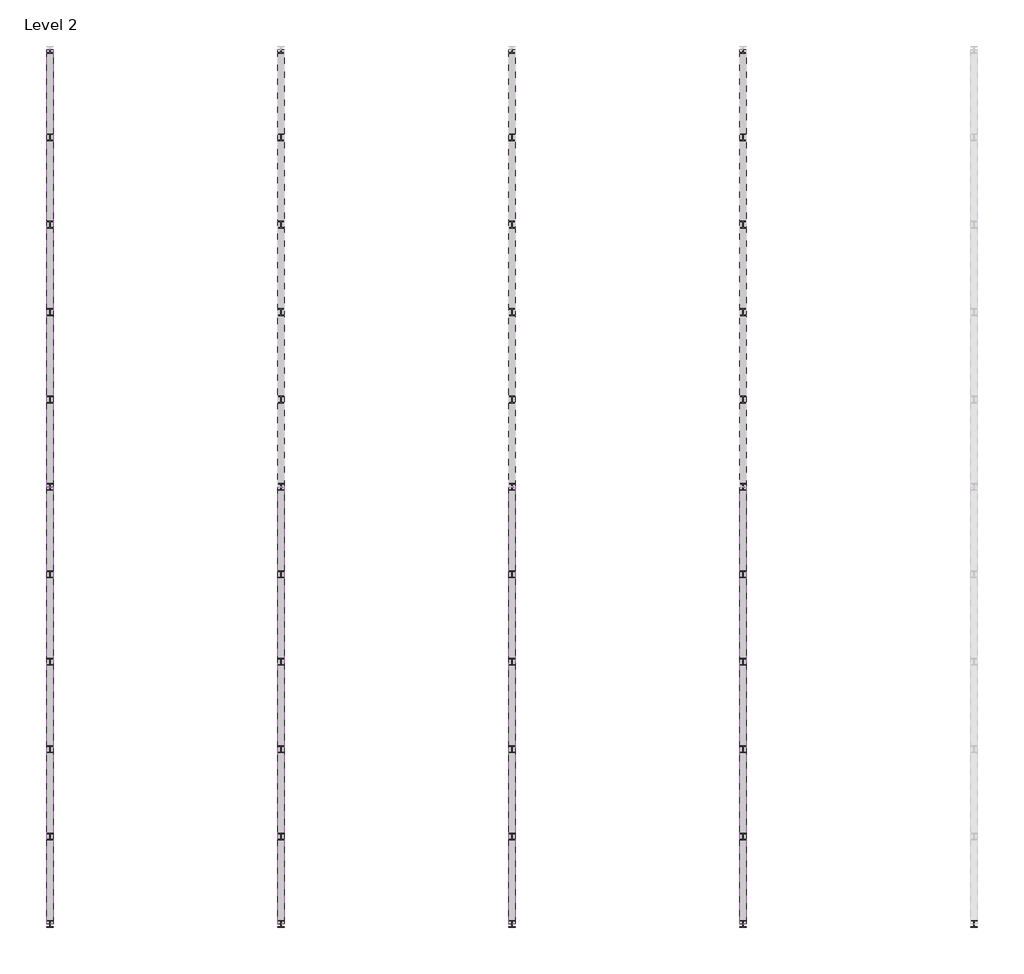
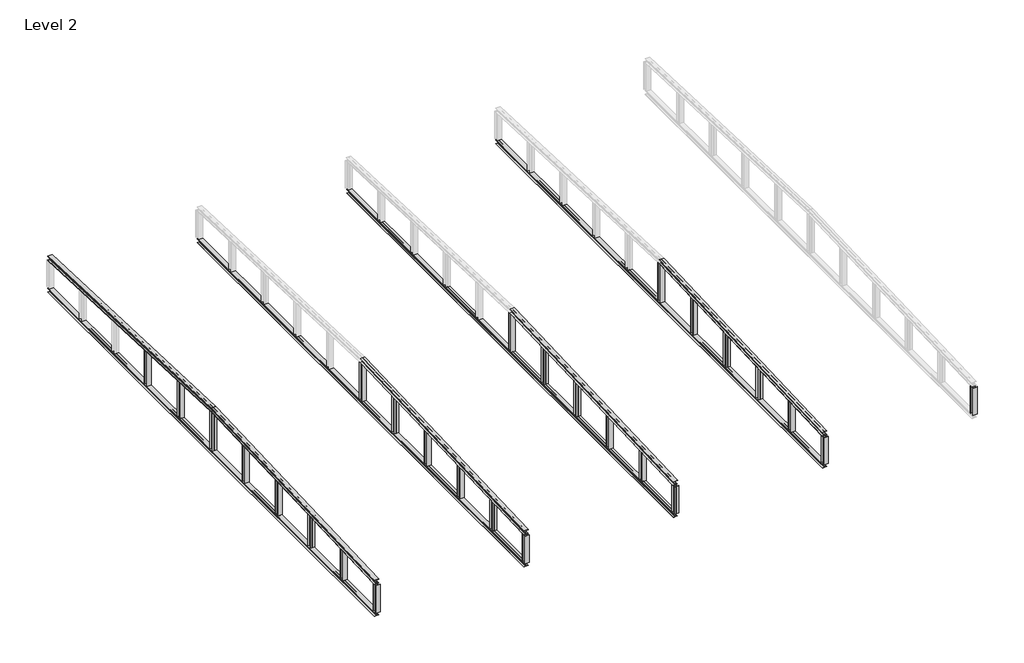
# One storey, part 1 of 2: 36 beams.
"""IFC4 building model written with IfcOpenShell, lengths in millimetres."""

from ifc_helpers import new_model, si_unit, frame, origin, place, context, project, spatial, polyline, circle_curve, ellipse_curve, transform, mapped, element, save
from ifc_brep_helpers import plane_surface, revolved_surface, advanced_brep
from components import hea240_4a02da6d, hea240_e4eec9e4, hea240_ab533a1a, hea240_35d9e401, hea240_a15198a2, hea240_e9e82d21, hea240_2c2d895f

model = new_model("IFC4")

# Units and contexts
model_context = context("Model", 3, world=origin())
ifc_project = project(units=[si_unit("LENGTHUNIT", "METRE", prefix="MILLI")], contexts=[model_context])

# Site, building, storey
site = spatial("IfcSite", under=ifc_project)
building = spatial("IfcBuilding", under=site)
storey = spatial("IfcBuildingStorey", under=building, Name="Level 2", Elevation=8500.0)

# Beams
placement = place(None, origin())
element("IfcBeam", 1, ObjectType="HE-A : HEA240", at=placement, inside=storey, context=model_context, shape_type="AdvancedBrep", body=[
    advanced_brep(
    [(8120.0, -140.88245, 10197.0823271), (8024.75, -140.88245, 10197.0823271), (8003.75, -141.7137556, 10218.0658666), (8003.75, -148.2058567, 10381.9373181), (8024.75, -149.0371623, 10402.9208576), (8120.0, -149.0371623, 10402.9208576), (8120.0, -149.5121941, 10414.9114517), (7880.0, -149.5121941, 10414.9114517), (7880.0, -149.0371623, 10402.9208576), (7975.25, -149.0371623, 10402.9208576), (7996.25, -148.2058567, 10381.9373181), (7996.25, -141.7137556, 10218.0658666), (7975.25, -140.88245, 10197.0823271), (7880.0, -140.88245, 10197.0823271), (7880.0, -140.4074182, 10185.0917331), (8120.0, -140.4074182, 10185.0917331), (8120.0, 15000.0, 10796.919202), (8024.75, 15000.0, 10796.919202), (8003.75, 15000.0, 10817.9356753), (8003.75, 15000.0, 10982.0643247), (8024.75, 15000.0, 11003.080798), (8120.0, 15000.0, 11003.080798), (8120.0, 15000.0, 11015.0902114), (7880.0, 15000.0, 11015.0902114), (7880.0, 15000.0, 11003.080798), (7975.25, 15000.0, 11003.080798), (7996.25, 15000.0, 10982.0643247), (7996.25, 15000.0, 10817.9356753), (7975.25, 15000.0, 10796.919202), (7880.0, 15000.0, 10796.919202), (7880.0, 15000.0, 10784.9097886), (8120.0, 15000.0, 10784.9097886)],
    [
        (0, 1),
        (1, 2, circle_curve(frame((8024.75, -141.7137556, 10218.0658666), z_axis=(0.0, 0.9992161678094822, 0.03958598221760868), x_axis=(-1.0, 0.0, 0.0)), 21.0)),
        (2, 3),
        (3, 4, circle_curve(frame((8024.75, -148.2058567, 10381.9373181), z_axis=(0.0, 0.9992161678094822, 0.03958598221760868), x_axis=(-1.0, 0.0, 0.0)), 21.0)),
        (4, 5),
        (5, 6),
        (6, 7),
        (7, 8),
        (8, 9),
        (9, 10, circle_curve(frame((7975.25, -148.2058567, 10381.9373181), z_axis=(0.0, 0.9992161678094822, 0.03958598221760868), x_axis=(-1.0, 0.0, 0.0)), 21.0)),
        (10, 11),
        (11, 12, circle_curve(frame((7975.25, -141.7137556, 10218.0658666), z_axis=(0.0, 0.9992161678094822, 0.03958598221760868), x_axis=(-1.0, 0.0, 0.0)), 21.0)),
        (12, 13),
        (13, 14),
        (14, 15),
        (15, 0),
        (0, 16),
        (16, 17),
        (17, 1),
        (17, 18, ellipse_curve(frame((8024.75, 15000.0, 10817.9356753), z_axis=(0.0, 1.0, 0.0), x_axis=(0.0, 0.0, 1.0)), 21.0164734, 21.0)),
        (18, 2),
        (18, 19),
        (19, 3),
        (19, 20, ellipse_curve(frame((8024.75, 15000.0, 10982.0643247), z_axis=(0.0, 1.0, 0.0), x_axis=(0.0, 0.0, 1.0)), 21.0164734, 21.0)),
        (20, 4),
        (20, 21),
        (21, 5),
        (21, 22),
        (22, 6),
        (22, 23),
        (23, 7),
        (23, 24),
        (24, 8),
        (24, 25),
        (25, 9),
        (25, 26, ellipse_curve(frame((7975.25, 15000.0, 10982.0643247), z_axis=(0.0, 1.0, 0.0), x_axis=(0.0, 0.0, 1.0)), 21.0164734, 21.0)),
        (26, 10),
        (26, 27),
        (27, 11),
        (27, 28, ellipse_curve(frame((7975.25, 15000.0, 10817.9356753), z_axis=(0.0, 1.0, 0.0), x_axis=(0.0, 0.0, 1.0)), 21.0164734, 21.0)),
        (28, 12),
        (28, 29),
        (29, 13),
        (29, 30),
        (30, 14),
        (30, 31),
        (31, 15),
        (31, 16),
    ],
    [
        plane_surface(frame((8000.0, -144.9598061, 10300.0015924), z_axis=(0.0, -0.9992161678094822, -0.03958598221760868), x_axis=(0.0, -0.03958598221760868, 0.9992161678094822))),
        plane_surface(frame((8120.0, -140.88245, 10197.0823271), z_axis=(0.0, -0.03958598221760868, 0.9992161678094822), x_axis=(0.0, 0.9992161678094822, 0.03958598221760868))),
        revolved_surface(polyline([(8003.75, 15000.831305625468, 10817.968609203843), (8003.75, -141.71375562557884, 10218.065866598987)]), (8024.75, -141.7137556, 10218.0658666), (0.0, 0.9992161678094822, 0.03958598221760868)),
        plane_surface(frame((8003.75, -141.7137556, 10218.0658666), z_axis=(1.0, 0.0, 0.0), x_axis=(0.0, 0.9992161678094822, 0.03958598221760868))),
        revolved_surface(polyline([(8003.75, 15000.831305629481, 10982.097258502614), (8003.75, -148.2058567, 10381.9373181)]), (8024.75, -148.2058567, 10381.9373181), (0.0, 0.9992161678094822, 0.03958598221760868)),
        plane_surface(frame((8024.75, -149.0371623, 10402.9208576), z_axis=(0.0, 0.03958598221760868, -0.9992161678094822), x_axis=(0.0, 0.9992161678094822, 0.03958598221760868))),
        plane_surface(frame((8120.0, -149.0371623, 10402.9208576), z_axis=(1.0, 0.0, 0.0), x_axis=(0.0, 0.9992161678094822, 0.03958598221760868))),
        plane_surface(frame((8120.0, -149.5121941, 10414.9114517), z_axis=(0.0, -0.03958598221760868, 0.9992161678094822), x_axis=(0.0, 0.9992161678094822, 0.03958598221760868))),
        plane_surface(frame((7880.0, -149.5121941, 10414.9114517), z_axis=(-1.0, 0.0, 0.0), x_axis=(0.0, 0.9992161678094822, 0.03958598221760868))),
        plane_surface(frame((7880.0, -149.0371623, 10402.9208576), z_axis=(0.0, 0.03958598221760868, -0.9992161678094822), x_axis=(0.0, 0.9992161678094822, 0.03958598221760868))),
        revolved_surface(polyline([(7954.25, 15000.831305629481, 10982.097258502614), (7954.25, -148.2058567, 10381.9373181)]), (7975.25, -148.2058567, 10381.9373181), (0.0, 0.9992161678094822, 0.03958598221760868)),
        plane_surface(frame((7996.25, -148.2058567, 10381.9373181), z_axis=(-1.0, 0.0, 0.0), x_axis=(0.0, 0.9992161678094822, 0.03958598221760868))),
        revolved_surface(polyline([(7954.25, 15000.831305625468, 10817.968609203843), (7954.25, -141.71375562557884, 10218.065866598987)]), (7975.25, -141.7137556, 10218.0658666), (0.0, 0.9992161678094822, 0.03958598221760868)),
        plane_surface(frame((7975.25, -140.88245, 10197.0823271), z_axis=(0.0, -0.03958598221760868, 0.9992161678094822), x_axis=(0.0, 0.9992161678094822, 0.03958598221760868))),
        plane_surface(frame((7880.0, -140.88245, 10197.0823271), z_axis=(-1.0, 0.0, 0.0), x_axis=(0.0, 0.9992161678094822, 0.03958598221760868))),
        plane_surface(frame((7880.0, -140.4074182, 10185.0917331), z_axis=(0.0, 0.03958598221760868, -0.9992161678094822), x_axis=(0.0, 0.9992161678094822, 0.03958598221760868))),
        plane_surface(frame((8120.0, -140.4074182, 10185.0917331), z_axis=(1.0, 0.0, 0.0), x_axis=(0.0, 0.9992161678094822, 0.03958598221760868))),
        plane_surface(frame((8000.0, 15000.0, 11015.0902114), z_axis=(0.0, 1.0, 0.0), x_axis=(0.0, 0.0, -1.0))),
    ],
    [
        (0, [[1, 2, 3, 4, 5, 6, 7, 8, 9, 10, 11, 12, 13, 14, 15, 16]]),
        (1, [[-1, 17, 18, 19]]),
        (2, [[-2, -19, 20, 21]]),
        (3, [[-3, -21, 22, 23]]),
        (4, [[-4, -23, 24, 25]]),
        (5, [[-5, -25, 26, 27]]),
        (6, [[-6, -27, 28, 29]]),
        (7, [[-7, -29, 30, 31]]),
        (8, [[-8, -31, 32, 33]]),
        (9, [[-9, -33, 34, 35]]),
        (10, [[-10, -35, 36, 37]]),
        (11, [[-11, -37, 38, 39]]),
        (12, [[-12, -39, 40, 41]]),
        (13, [[-13, -41, 42, 43]]),
        (14, [[-14, -43, 44, 45]]),
        (15, [[-15, -45, 46, 47]]),
        (16, [[-16, -47, 48, -17]]),
        (17, [[-48, -46, -44, -42, -40, -38, -36, -34, -32, -30, -28, -26, -24, -22, -20, -18]]),
    ],
),
])
element("IfcBeam", 2, ObjectType="HE-A : HEA240", at=placement, inside=storey, context=model_context, shape_type="AdvancedBrep", body=[
    advanced_brep(
    [(120.0, 30140.88245, 10197.0823271), (120.0, 30140.4074182, 10185.0917331), (-120.0, 30140.4074182, 10185.0917331), (-120.0, 30140.88245, 10197.0823271), (-24.75, 30140.88245, 10197.0823271), (-3.75, 30141.7137556, 10218.0658666), (-3.75, 30148.2058567, 10381.9373181), (-24.75, 30149.0371623, 10402.9208576), (-120.0, 30149.0371623, 10402.9208576), (-120.0, 30149.5121941, 10414.9114517), (120.0, 30149.5121941, 10414.9114517), (120.0, 30149.0371623, 10402.9208576), (24.75, 30149.0371623, 10402.9208576), (3.75, 30148.2058567, 10381.9373181), (3.75, 30141.7137556, 10218.0658666), (24.75, 30140.88245, 10197.0823271), (24.75, 15000.0, 10796.919202), (120.0, 15000.0, 10796.919202), (3.75, 15000.0, 10817.9356753), (3.75, 15000.0, 10982.0643247), (24.75, 15000.0, 11003.080798), (120.0, 15000.0, 11003.080798), (120.0, 15000.0, 11015.0902114), (-120.0, 15000.0, 11015.0902114), (-120.0, 15000.0, 11003.080798), (-24.75, 15000.0, 11003.080798), (-3.75, 15000.0, 10982.0643247), (-3.75, 15000.0, 10817.9356753), (-24.75, 15000.0, 10796.919202), (-120.0, 15000.0, 10796.919202), (-120.0, 15000.0, 10784.9097886), (120.0, 15000.0, 10784.9097886)],
    [
        (0, 1),
        (1, 2),
        (2, 3),
        (3, 4),
        (4, 5, circle_curve(frame((-24.75, 30141.7137556, 10218.0658666), z_axis=(0.0, -0.9992161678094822, 0.039585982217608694), x_axis=(-1.0, 0.0, 0.0)), 21.0)),
        (5, 6),
        (6, 7, circle_curve(frame((-24.75, 30148.2058567, 10381.9373181), z_axis=(0.0, -0.9992161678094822, 0.039585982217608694), x_axis=(-1.0, 0.0, 0.0)), 21.0)),
        (7, 8),
        (8, 9),
        (9, 10),
        (10, 11),
        (11, 12),
        (12, 13, circle_curve(frame((24.75, 30148.2058567, 10381.9373181), z_axis=(0.0, -0.9992161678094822, 0.039585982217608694), x_axis=(-1.0, 0.0, 0.0)), 21.0)),
        (13, 14),
        (14, 15, circle_curve(frame((24.75, 30141.7137556, 10218.0658666), z_axis=(0.0, -0.9992161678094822, 0.039585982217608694), x_axis=(-1.0, 0.0, 0.0)), 21.0)),
        (15, 0),
        (16, 17),
        (17, 0),
        (15, 16),
        (18, 16, ellipse_curve(frame((24.75, 15000.0, 10817.9356753), z_axis=(0.0, -1.0, 0.0), x_axis=(0.0, 0.0, -1.0)), 21.0164734, 21.0)),
        (14, 18),
        (19, 18),
        (13, 19),
        (20, 19, ellipse_curve(frame((24.75, 15000.0, 10982.0643247), z_axis=(0.0, -1.0, 0.0), x_axis=(0.0, 0.0, -1.0)), 21.0164734, 21.0)),
        (12, 20),
        (21, 20),
        (11, 21),
        (22, 21),
        (10, 22),
        (23, 22),
        (9, 23),
        (24, 23),
        (8, 24),
        (25, 24),
        (7, 25),
        (26, 25, ellipse_curve(frame((-24.75, 15000.0, 10982.0643247), z_axis=(0.0, -1.0, 0.0), x_axis=(0.0, 0.0, -1.0)), 21.0164734, 21.0)),
        (6, 26),
        (27, 26),
        (5, 27),
        (28, 27, ellipse_curve(frame((-24.75, 15000.0, 10817.9356753), z_axis=(0.0, -1.0, 0.0), x_axis=(0.0, 0.0, -1.0)), 21.0164734, 21.0)),
        (4, 28),
        (29, 28),
        (3, 29),
        (30, 29),
        (2, 30),
        (31, 30),
        (1, 31),
        (17, 31),
    ],
    [
        plane_surface(frame((0.0, 30144.9598061, 10300.0015924), z_axis=(0.0, 0.9992161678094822, -0.039585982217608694), x_axis=(0.0, 0.039585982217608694, 0.9992161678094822))),
        plane_surface(frame((120.0, 14995.9628377, 10797.0791424), z_axis=(0.0, 0.039585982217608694, 0.9992161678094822), x_axis=(0.0, 0.9992161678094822, -0.039585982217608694))),
        revolved_surface(polyline([(3.75, 30141.713755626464, 10218.06586662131), (3.75, 14999.168694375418, 10817.968609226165)]), (24.75, 14996.7941433, 10818.0626819), (0.0, 0.9992161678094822, -0.039585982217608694)),
        plane_surface(frame((3.75, 14996.7941433, 10818.0626819), z_axis=(1.0, 0.0, 0.0), x_axis=(0.0, 0.9992161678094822, -0.039585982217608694))),
        revolved_surface(polyline([(3.75, 30148.205856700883, 10381.937318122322), (3.75, 14999.168694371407, 10982.097258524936)]), (24.75, 15003.2862444, 10981.9341334), (0.0, 0.9992161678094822, -0.039585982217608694)),
        plane_surface(frame((24.75, 15004.11755, 11002.9176729), z_axis=(0.0, -0.039585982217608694, -0.9992161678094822), x_axis=(0.0, 0.9992161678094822, -0.039585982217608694))),
        plane_surface(frame((120.0, 15004.11755, 11002.9176729), z_axis=(1.0, 0.0, 0.0), x_axis=(0.0, 0.9992161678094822, -0.039585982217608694))),
        plane_surface(frame((120.0, 15004.5925818, 11014.9082669), z_axis=(0.0, 0.039585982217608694, 0.9992161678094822), x_axis=(0.0, 0.9992161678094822, -0.039585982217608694))),
        plane_surface(frame((-120.0, 15004.5925818, 11014.9082669), z_axis=(-1.0, 0.0, 0.0), x_axis=(0.0, 0.9992161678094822, -0.039585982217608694))),
        plane_surface(frame((-120.0, 15004.11755, 11002.9176729), z_axis=(0.0, -0.039585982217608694, -0.9992161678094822), x_axis=(0.0, 0.9992161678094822, -0.039585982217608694))),
        revolved_surface(polyline([(-45.75, 30148.205856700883, 10381.937318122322), (-45.75, 14999.168694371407, 10982.097258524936)]), (-24.75, 15003.2862444, 10981.9341334), (0.0, 0.9992161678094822, -0.039585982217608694)),
        plane_surface(frame((-3.75, 15003.2862444, 10981.9341334), z_axis=(-1.0, 0.0, 0.0), x_axis=(0.0, 0.9992161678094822, -0.039585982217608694))),
        revolved_surface(polyline([(-45.75, 30141.713755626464, 10218.06586662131), (-45.75, 14999.168694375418, 10817.968609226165)]), (-24.75, 14996.7941433, 10818.0626819), (0.0, 0.9992161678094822, -0.039585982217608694)),
        plane_surface(frame((-24.75, 14995.9628377, 10797.0791424), z_axis=(0.0, 0.039585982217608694, 0.9992161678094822), x_axis=(0.0, 0.9992161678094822, -0.039585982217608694))),
        plane_surface(frame((-120.0, 14995.9628377, 10797.0791424), z_axis=(-1.0, 0.0, 0.0), x_axis=(0.0, 0.9992161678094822, -0.039585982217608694))),
        plane_surface(frame((-120.0, 14995.4878059, 10785.0885483), z_axis=(0.0, -0.039585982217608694, -0.9992161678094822), x_axis=(0.0, 0.9992161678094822, -0.039585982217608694))),
        plane_surface(frame((120.0, 14995.4878059, 10785.0885483), z_axis=(1.0, 0.0, 0.0), x_axis=(0.0, 0.9992161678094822, -0.039585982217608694))),
        plane_surface(frame((0.0, 15000.0, 11015.0902114), z_axis=(0.0, -1.0, 0.0), x_axis=(0.0, 0.0, 1.0))),
    ],
    [
        (0, [[1, 2, 3, 4, 5, 6, 7, 8, 9, 10, 11, 12, 13, 14, 15, 16]]),
        (1, [[17, 18, -16, 19]]),
        (2, [[20, -19, -15, 21]]),
        (3, [[22, -21, -14, 23]]),
        (4, [[24, -23, -13, 25]]),
        (5, [[26, -25, -12, 27]]),
        (6, [[28, -27, -11, 29]]),
        (7, [[30, -29, -10, 31]]),
        (8, [[32, -31, -9, 33]]),
        (9, [[34, -33, -8, 35]]),
        (10, [[36, -35, -7, 37]]),
        (11, [[38, -37, -6, 39]]),
        (12, [[40, -39, -5, 41]]),
        (13, [[42, -41, -4, 43]]),
        (14, [[44, -43, -3, 45]]),
        (15, [[46, -45, -2, 47]]),
        (16, [[48, -47, -1, -18]]),
        (17, [[-17, -20, -22, -24, -26, -28, -30, -32, -34, -36, -38, -40, -42, -44, -46, -48]]),
    ],
),
])
element("IfcBeam", 3, ObjectType="HE-A : HEA240", at=placement, inside=storey, context=model_context, shape_type="AdvancedBrep", body=[
    advanced_brep(
    [(120.0, -140.88245, 10197.0823271), (24.75, -140.88245, 10197.0823271), (3.75, -141.7137556, 10218.0658666), (3.75, -148.2058567, 10381.9373181), (24.75, -149.0371623, 10402.9208576), (120.0, -149.0371623, 10402.9208576), (120.0, -149.5121941, 10414.9114517), (-120.0, -149.5121941, 10414.9114517), (-120.0, -149.0371623, 10402.9208576), (-24.75, -149.0371623, 10402.9208576), (-3.75, -148.2058567, 10381.9373181), (-3.75, -141.7137556, 10218.0658666), (-24.75, -140.88245, 10197.0823271), (-120.0, -140.88245, 10197.0823271), (-120.0, -140.4074182, 10185.0917331), (120.0, -140.4074182, 10185.0917331), (120.0, 15000.0, 10796.919202), (24.75, 15000.0, 10796.919202), (3.75, 15000.0, 10817.9356753), (3.75, 15000.0, 10982.0643247), (24.75, 15000.0, 11003.080798), (120.0, 15000.0, 11003.080798), (120.0, 15000.0, 11015.0902114), (-120.0, 15000.0, 11015.0902114), (-120.0, 15000.0, 11003.080798), (-24.75, 15000.0, 11003.080798), (-3.75, 15000.0, 10982.0643247), (-3.75, 15000.0, 10817.9356753), (-24.75, 15000.0, 10796.919202), (-120.0, 15000.0, 10796.919202), (-120.0, 15000.0, 10784.9097886), (120.0, 15000.0, 10784.9097886)],
    [
        (0, 1),
        (1, 2, circle_curve(frame((24.75, -141.7137556, 10218.0658666), z_axis=(0.0, 0.9992161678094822, 0.03958598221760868), x_axis=(-1.0, 0.0, 0.0)), 21.0)),
        (2, 3),
        (3, 4, circle_curve(frame((24.75, -148.2058567, 10381.9373181), z_axis=(0.0, 0.9992161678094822, 0.03958598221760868), x_axis=(-1.0, 0.0, 0.0)), 21.0)),
        (4, 5),
        (5, 6),
        (6, 7),
        (7, 8),
        (8, 9),
        (9, 10, circle_curve(frame((-24.75, -148.2058567, 10381.9373181), z_axis=(0.0, 0.9992161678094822, 0.03958598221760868), x_axis=(-1.0, 0.0, 0.0)), 21.0)),
        (10, 11),
        (11, 12, circle_curve(frame((-24.75, -141.7137556, 10218.0658666), z_axis=(0.0, 0.9992161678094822, 0.03958598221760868), x_axis=(-1.0, 0.0, 0.0)), 21.0)),
        (12, 13),
        (13, 14),
        (14, 15),
        (15, 0),
        (0, 16),
        (16, 17),
        (17, 1),
        (17, 18, ellipse_curve(frame((24.75, 15000.0, 10817.9356753), z_axis=(0.0, 1.0, 0.0), x_axis=(0.0, 0.0, 1.0)), 21.0164734, 21.0)),
        (18, 2),
        (18, 19),
        (19, 3),
        (19, 20, ellipse_curve(frame((24.75, 15000.0, 10982.0643247), z_axis=(0.0, 1.0, 0.0), x_axis=(0.0, 0.0, 1.0)), 21.0164734, 21.0)),
        (20, 4),
        (20, 21),
        (21, 5),
        (21, 22),
        (22, 6),
        (22, 23),
        (23, 7),
        (23, 24),
        (24, 8),
        (24, 25),
        (25, 9),
        (25, 26, ellipse_curve(frame((-24.75, 15000.0, 10982.0643247), z_axis=(0.0, 1.0, 0.0), x_axis=(0.0, 0.0, 1.0)), 21.0164734, 21.0)),
        (26, 10),
        (26, 27),
        (27, 11),
        (27, 28, ellipse_curve(frame((-24.75, 15000.0, 10817.9356753), z_axis=(0.0, 1.0, 0.0), x_axis=(0.0, 0.0, 1.0)), 21.0164734, 21.0)),
        (28, 12),
        (28, 29),
        (29, 13),
        (29, 30),
        (30, 14),
        (30, 31),
        (31, 15),
        (31, 16),
    ],
    [
        plane_surface(frame((0.0, -144.9598061, 10300.0015924), z_axis=(0.0, -0.9992161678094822, -0.03958598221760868), x_axis=(0.0, -0.03958598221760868, 0.9992161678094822))),
        plane_surface(frame((120.0, -140.88245, 10197.0823271), z_axis=(0.0, -0.03958598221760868, 0.9992161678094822), x_axis=(0.0, 0.9992161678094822, 0.03958598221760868))),
        revolved_surface(polyline([(3.75, 15000.831305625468, 10817.968609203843), (3.75, -141.71375562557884, 10218.065866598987)]), (24.75, -141.7137556, 10218.0658666), (0.0, 0.9992161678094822, 0.03958598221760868)),
        plane_surface(frame((3.75, -141.7137556, 10218.0658666), z_axis=(1.0, 0.0, 0.0), x_axis=(0.0, 0.9992161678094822, 0.03958598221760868))),
        revolved_surface(polyline([(3.75, 15000.831305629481, 10982.097258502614), (3.75, -148.2058567, 10381.9373181)]), (24.75, -148.2058567, 10381.9373181), (0.0, 0.9992161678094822, 0.03958598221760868)),
        plane_surface(frame((24.75, -149.0371623, 10402.9208576), z_axis=(0.0, 0.03958598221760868, -0.9992161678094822), x_axis=(0.0, 0.9992161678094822, 0.03958598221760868))),
        plane_surface(frame((120.0, -149.0371623, 10402.9208576), z_axis=(1.0, 0.0, 0.0), x_axis=(0.0, 0.9992161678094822, 0.03958598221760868))),
        plane_surface(frame((120.0, -149.5121941, 10414.9114517), z_axis=(0.0, -0.03958598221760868, 0.9992161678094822), x_axis=(0.0, 0.9992161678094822, 0.03958598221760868))),
        plane_surface(frame((-120.0, -149.5121941, 10414.9114517), z_axis=(-1.0, 0.0, 0.0), x_axis=(0.0, 0.9992161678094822, 0.03958598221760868))),
        plane_surface(frame((-120.0, -149.0371623, 10402.9208576), z_axis=(0.0, 0.03958598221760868, -0.9992161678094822), x_axis=(0.0, 0.9992161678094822, 0.03958598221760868))),
        revolved_surface(polyline([(-45.75, 15000.831305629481, 10982.097258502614), (-45.75, -148.2058567, 10381.9373181)]), (-24.75, -148.2058567, 10381.9373181), (0.0, 0.9992161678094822, 0.03958598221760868)),
        plane_surface(frame((-3.75, -148.2058567, 10381.9373181), z_axis=(-1.0, 0.0, 0.0), x_axis=(0.0, 0.9992161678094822, 0.03958598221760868))),
        revolved_surface(polyline([(-45.75, 15000.831305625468, 10817.968609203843), (-45.75, -141.71375562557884, 10218.065866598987)]), (-24.75, -141.7137556, 10218.0658666), (0.0, 0.9992161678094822, 0.03958598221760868)),
        plane_surface(frame((-24.75, -140.88245, 10197.0823271), z_axis=(0.0, -0.03958598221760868, 0.9992161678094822), x_axis=(0.0, 0.9992161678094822, 0.03958598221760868))),
        plane_surface(frame((-120.0, -140.88245, 10197.0823271), z_axis=(-1.0, 0.0, 0.0), x_axis=(0.0, 0.9992161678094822, 0.03958598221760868))),
        plane_surface(frame((-120.0, -140.4074182, 10185.0917331), z_axis=(0.0, 0.03958598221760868, -0.9992161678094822), x_axis=(0.0, 0.9992161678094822, 0.03958598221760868))),
        plane_surface(frame((120.0, -140.4074182, 10185.0917331), z_axis=(1.0, 0.0, 0.0), x_axis=(0.0, 0.9992161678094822, 0.03958598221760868))),
        plane_surface(frame((0.0, 15000.0, 11015.0902114), z_axis=(0.0, 1.0, 0.0), x_axis=(0.0, 0.0, -1.0))),
    ],
    [
        (0, [[1, 2, 3, 4, 5, 6, 7, 8, 9, 10, 11, 12, 13, 14, 15, 16]]),
        (1, [[-1, 17, 18, 19]]),
        (2, [[-2, -19, 20, 21]]),
        (3, [[-3, -21, 22, 23]]),
        (4, [[-4, -23, 24, 25]]),
        (5, [[-5, -25, 26, 27]]),
        (6, [[-6, -27, 28, 29]]),
        (7, [[-7, -29, 30, 31]]),
        (8, [[-8, -31, 32, 33]]),
        (9, [[-9, -33, 34, 35]]),
        (10, [[-10, -35, 36, 37]]),
        (11, [[-11, -37, 38, 39]]),
        (12, [[-12, -39, 40, 41]]),
        (13, [[-13, -41, 42, 43]]),
        (14, [[-14, -43, 44, 45]]),
        (15, [[-15, -45, 46, 47]]),
        (16, [[-16, -47, 48, -17]]),
        (17, [[-48, -46, -44, -42, -40, -38, -36, -34, -32, -30, -28, -26, -24, -22, -20, -18]]),
    ],
),
])
element("IfcBeam", 4, ObjectType="HE-A : HEA240", at=placement, inside=storey, context=model_context, shape_type="AdvancedBrep", body=[
    advanced_brep(
    [(16120.0, -140.88245, 10197.0823271), (16024.75, -140.88245, 10197.0823271), (16003.75, -141.7137556, 10218.0658666), (16003.75, -148.2058567, 10381.9373181), (16024.75, -149.0371623, 10402.9208576), (16120.0, -149.0371623, 10402.9208576), (16120.0, -149.5121941, 10414.9114517), (15880.0, -149.5121941, 10414.9114517), (15880.0, -149.0371623, 10402.9208576), (15975.25, -149.0371623, 10402.9208576), (15996.25, -148.2058567, 10381.9373181), (15996.25, -141.7137556, 10218.0658666), (15975.25, -140.88245, 10197.0823271), (15880.0, -140.88245, 10197.0823271), (15880.0, -140.4074182, 10185.0917331), (16120.0, -140.4074182, 10185.0917331), (16120.0, 15000.0, 10796.919202), (16024.75, 15000.0, 10796.919202), (16003.75, 15000.0, 10817.9356753), (16003.75, 15000.0, 10982.0643247), (16024.75, 15000.0, 11003.080798), (16120.0, 15000.0, 11003.080798), (16120.0, 15000.0, 11015.0902114), (15880.0, 15000.0, 11015.0902114), (15880.0, 15000.0, 11003.080798), (15975.25, 15000.0, 11003.080798), (15996.25, 15000.0, 10982.0643247), (15996.25, 15000.0, 10817.9356753), (15975.25, 15000.0, 10796.919202), (15880.0, 15000.0, 10796.919202), (15880.0, 15000.0, 10784.9097886), (16120.0, 15000.0, 10784.9097886)],
    [
        (0, 1),
        (1, 2, circle_curve(frame((16024.75, -141.7137556, 10218.0658666), z_axis=(0.0, 0.9992161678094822, 0.03958598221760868), x_axis=(-1.0, 0.0, 0.0)), 21.0)),
        (2, 3),
        (3, 4, circle_curve(frame((16024.75, -148.2058567, 10381.9373181), z_axis=(0.0, 0.9992161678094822, 0.03958598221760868), x_axis=(-1.0, 0.0, 0.0)), 21.0)),
        (4, 5),
        (5, 6),
        (6, 7),
        (7, 8),
        (8, 9),
        (9, 10, circle_curve(frame((15975.25, -148.2058567, 10381.9373181), z_axis=(0.0, 0.9992161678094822, 0.03958598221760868), x_axis=(-1.0, 0.0, 0.0)), 21.0)),
        (10, 11),
        (11, 12, circle_curve(frame((15975.25, -141.7137556, 10218.0658666), z_axis=(0.0, 0.9992161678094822, 0.03958598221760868), x_axis=(-1.0, 0.0, 0.0)), 21.0)),
        (12, 13),
        (13, 14),
        (14, 15),
        (15, 0),
        (0, 16),
        (16, 17),
        (17, 1),
        (17, 18, ellipse_curve(frame((16024.75, 15000.0, 10817.9356753), z_axis=(0.0, 1.0, 0.0), x_axis=(0.0, 0.0, 1.0)), 21.0164734, 21.0)),
        (18, 2),
        (18, 19),
        (19, 3),
        (19, 20, ellipse_curve(frame((16024.75, 15000.0, 10982.0643247), z_axis=(0.0, 1.0, 0.0), x_axis=(0.0, 0.0, 1.0)), 21.0164734, 21.0)),
        (20, 4),
        (20, 21),
        (21, 5),
        (21, 22),
        (22, 6),
        (22, 23),
        (23, 7),
        (23, 24),
        (24, 8),
        (24, 25),
        (25, 9),
        (25, 26, ellipse_curve(frame((15975.25, 15000.0, 10982.0643247), z_axis=(0.0, 1.0, 0.0), x_axis=(0.0, 0.0, 1.0)), 21.0164734, 21.0)),
        (26, 10),
        (26, 27),
        (27, 11),
        (27, 28, ellipse_curve(frame((15975.25, 15000.0, 10817.9356753), z_axis=(0.0, 1.0, 0.0), x_axis=(0.0, 0.0, 1.0)), 21.0164734, 21.0)),
        (28, 12),
        (28, 29),
        (29, 13),
        (29, 30),
        (30, 14),
        (30, 31),
        (31, 15),
        (31, 16),
    ],
    [
        plane_surface(frame((16000.0, -144.9598061, 10300.0015924), z_axis=(0.0, -0.9992161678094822, -0.03958598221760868), x_axis=(0.0, -0.03958598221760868, 0.9992161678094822))),
        plane_surface(frame((16120.0, -140.88245, 10197.0823271), z_axis=(0.0, -0.03958598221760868, 0.9992161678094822), x_axis=(0.0, 0.9992161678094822, 0.03958598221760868))),
        revolved_surface(polyline([(16003.75, 15000.831305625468, 10817.968609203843), (16003.75, -141.71375562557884, 10218.065866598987)]), (16024.75, -141.7137556, 10218.0658666), (0.0, 0.9992161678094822, 0.03958598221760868)),
        plane_surface(frame((16003.75, -141.7137556, 10218.0658666), z_axis=(1.0, 0.0, 0.0), x_axis=(0.0, 0.9992161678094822, 0.03958598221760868))),
        revolved_surface(polyline([(16003.75, 15000.831305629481, 10982.097258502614), (16003.75, -148.2058567, 10381.9373181)]), (16024.75, -148.2058567, 10381.9373181), (0.0, 0.9992161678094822, 0.03958598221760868)),
        plane_surface(frame((16024.75, -149.0371623, 10402.9208576), z_axis=(0.0, 0.03958598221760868, -0.9992161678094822), x_axis=(0.0, 0.9992161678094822, 0.03958598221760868))),
        plane_surface(frame((16120.0, -149.0371623, 10402.9208576), z_axis=(1.0, 0.0, 0.0), x_axis=(0.0, 0.9992161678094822, 0.03958598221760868))),
        plane_surface(frame((16120.0, -149.5121941, 10414.9114517), z_axis=(0.0, -0.03958598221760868, 0.9992161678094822), x_axis=(0.0, 0.9992161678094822, 0.03958598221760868))),
        plane_surface(frame((15880.0, -149.5121941, 10414.9114517), z_axis=(-1.0, 0.0, 0.0), x_axis=(0.0, 0.9992161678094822, 0.03958598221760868))),
        plane_surface(frame((15880.0, -149.0371623, 10402.9208576), z_axis=(0.0, 0.03958598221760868, -0.9992161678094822), x_axis=(0.0, 0.9992161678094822, 0.03958598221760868))),
        revolved_surface(polyline([(15954.25, 15000.831305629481, 10982.097258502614), (15954.25, -148.2058567, 10381.9373181)]), (15975.25, -148.2058567, 10381.9373181), (0.0, 0.9992161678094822, 0.03958598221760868)),
        plane_surface(frame((15996.25, -148.2058567, 10381.9373181), z_axis=(-1.0, 0.0, 0.0), x_axis=(0.0, 0.9992161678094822, 0.03958598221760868))),
        revolved_surface(polyline([(15954.25, 15000.831305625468, 10817.968609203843), (15954.25, -141.71375562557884, 10218.065866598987)]), (15975.25, -141.7137556, 10218.0658666), (0.0, 0.9992161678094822, 0.03958598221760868)),
        plane_surface(frame((15975.25, -140.88245, 10197.0823271), z_axis=(0.0, -0.03958598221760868, 0.9992161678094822), x_axis=(0.0, 0.9992161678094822, 0.03958598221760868))),
        plane_surface(frame((15880.0, -140.88245, 10197.0823271), z_axis=(-1.0, 0.0, 0.0), x_axis=(0.0, 0.9992161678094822, 0.03958598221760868))),
        plane_surface(frame((15880.0, -140.4074182, 10185.0917331), z_axis=(0.0, 0.03958598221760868, -0.9992161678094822), x_axis=(0.0, 0.9992161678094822, 0.03958598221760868))),
        plane_surface(frame((16120.0, -140.4074182, 10185.0917331), z_axis=(1.0, 0.0, 0.0), x_axis=(0.0, 0.9992161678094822, 0.03958598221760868))),
        plane_surface(frame((16000.0, 15000.0, 11015.0902114), z_axis=(0.0, 1.0, 0.0), x_axis=(0.0, 0.0, -1.0))),
    ],
    [
        (0, [[1, 2, 3, 4, 5, 6, 7, 8, 9, 10, 11, 12, 13, 14, 15, 16]]),
        (1, [[-1, 17, 18, 19]]),
        (2, [[-2, -19, 20, 21]]),
        (3, [[-3, -21, 22, 23]]),
        (4, [[-4, -23, 24, 25]]),
        (5, [[-5, -25, 26, 27]]),
        (6, [[-6, -27, 28, 29]]),
        (7, [[-7, -29, 30, 31]]),
        (8, [[-8, -31, 32, 33]]),
        (9, [[-9, -33, 34, 35]]),
        (10, [[-10, -35, 36, 37]]),
        (11, [[-11, -37, 38, 39]]),
        (12, [[-12, -39, 40, 41]]),
        (13, [[-13, -41, 42, 43]]),
        (14, [[-14, -43, 44, 45]]),
        (15, [[-15, -45, 46, 47]]),
        (16, [[-16, -47, 48, -17]]),
        (17, [[-48, -46, -44, -42, -40, -38, -36, -34, -32, -30, -28, -26, -24, -22, -20, -18]]),
    ],
),
])
element("IfcBeam", 5, ObjectType="HE-A : HEA240", at=placement, inside=storey, context=model_context, shape_type="AdvancedBrep", body=[
    advanced_brep(
    [(24120.0, -140.88245, 10197.0823271), (24024.75, -140.88245, 10197.0823271), (24003.75, -141.7137556, 10218.0658666), (24003.75, -148.2058567, 10381.9373181), (24024.75, -149.0371623, 10402.9208576), (24120.0, -149.0371623, 10402.9208576), (24120.0, -149.5121941, 10414.9114517), (23880.0, -149.5121941, 10414.9114517), (23880.0, -149.0371623, 10402.9208576), (23975.25, -149.0371623, 10402.9208576), (23996.25, -148.2058567, 10381.9373181), (23996.25, -141.7137556, 10218.0658666), (23975.25, -140.88245, 10197.0823271), (23880.0, -140.88245, 10197.0823271), (23880.0, -140.4074182, 10185.0917331), (24120.0, -140.4074182, 10185.0917331), (24120.0, 15000.0, 10796.919202), (24024.75, 15000.0, 10796.919202), (24003.75, 15000.0, 10817.9356753), (24003.75, 15000.0, 10982.0643247), (24024.75, 15000.0, 11003.080798), (24120.0, 15000.0, 11003.080798), (24120.0, 15000.0, 11015.0902114), (23880.0, 15000.0, 11015.0902114), (23880.0, 15000.0, 11003.080798), (23975.25, 15000.0, 11003.080798), (23996.25, 15000.0, 10982.0643247), (23996.25, 15000.0, 10817.9356753), (23975.25, 15000.0, 10796.919202), (23880.0, 15000.0, 10796.919202), (23880.0, 15000.0, 10784.9097886), (24120.0, 15000.0, 10784.9097886)],
    [
        (0, 1),
        (1, 2, circle_curve(frame((24024.75, -141.7137556, 10218.0658666), z_axis=(0.0, 0.9992161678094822, 0.03958598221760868), x_axis=(-1.0, 0.0, 0.0)), 21.0)),
        (2, 3),
        (3, 4, circle_curve(frame((24024.75, -148.2058567, 10381.9373181), z_axis=(0.0, 0.9992161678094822, 0.03958598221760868), x_axis=(-1.0, 0.0, 0.0)), 21.0)),
        (4, 5),
        (5, 6),
        (6, 7),
        (7, 8),
        (8, 9),
        (9, 10, circle_curve(frame((23975.25, -148.2058567, 10381.9373181), z_axis=(0.0, 0.9992161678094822, 0.03958598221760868), x_axis=(-1.0, 0.0, 0.0)), 21.0)),
        (10, 11),
        (11, 12, circle_curve(frame((23975.25, -141.7137556, 10218.0658666), z_axis=(0.0, 0.9992161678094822, 0.03958598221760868), x_axis=(-1.0, 0.0, 0.0)), 21.0)),
        (12, 13),
        (13, 14),
        (14, 15),
        (15, 0),
        (0, 16),
        (16, 17),
        (17, 1),
        (17, 18, ellipse_curve(frame((24024.75, 15000.0, 10817.9356753), z_axis=(0.0, 1.0, 0.0), x_axis=(0.0, 0.0, 1.0)), 21.0164734, 21.0)),
        (18, 2),
        (18, 19),
        (19, 3),
        (19, 20, ellipse_curve(frame((24024.75, 15000.0, 10982.0643247), z_axis=(0.0, 1.0, 0.0), x_axis=(0.0, 0.0, 1.0)), 21.0164734, 21.0)),
        (20, 4),
        (20, 21),
        (21, 5),
        (21, 22),
        (22, 6),
        (22, 23),
        (23, 7),
        (23, 24),
        (24, 8),
        (24, 25),
        (25, 9),
        (25, 26, ellipse_curve(frame((23975.25, 15000.0, 10982.0643247), z_axis=(0.0, 1.0, 0.0), x_axis=(0.0, 0.0, 1.0)), 21.0164734, 21.0)),
        (26, 10),
        (26, 27),
        (27, 11),
        (27, 28, ellipse_curve(frame((23975.25, 15000.0, 10817.9356753), z_axis=(0.0, 1.0, 0.0), x_axis=(0.0, 0.0, 1.0)), 21.0164734, 21.0)),
        (28, 12),
        (28, 29),
        (29, 13),
        (29, 30),
        (30, 14),
        (30, 31),
        (31, 15),
        (31, 16),
    ],
    [
        plane_surface(frame((24000.0, -144.9598061, 10300.0015924), z_axis=(0.0, -0.9992161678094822, -0.03958598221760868), x_axis=(0.0, -0.03958598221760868, 0.9992161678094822))),
        plane_surface(frame((24120.0, -140.88245, 10197.0823271), z_axis=(0.0, -0.03958598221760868, 0.9992161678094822), x_axis=(0.0, 0.9992161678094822, 0.03958598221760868))),
        revolved_surface(polyline([(24003.75, 15000.831305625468, 10817.968609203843), (24003.75, -141.71375562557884, 10218.065866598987)]), (24024.75, -141.7137556, 10218.0658666), (0.0, 0.9992161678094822, 0.03958598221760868)),
        plane_surface(frame((24003.75, -141.7137556, 10218.0658666), z_axis=(1.0, 0.0, 0.0), x_axis=(0.0, 0.9992161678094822, 0.03958598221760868))),
        revolved_surface(polyline([(24003.75, 15000.831305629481, 10982.097258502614), (24003.75, -148.2058567, 10381.9373181)]), (24024.75, -148.2058567, 10381.9373181), (0.0, 0.9992161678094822, 0.03958598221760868)),
        plane_surface(frame((24024.75, -149.0371623, 10402.9208576), z_axis=(0.0, 0.03958598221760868, -0.9992161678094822), x_axis=(0.0, 0.9992161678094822, 0.03958598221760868))),
        plane_surface(frame((24120.0, -149.0371623, 10402.9208576), z_axis=(1.0, 0.0, 0.0), x_axis=(0.0, 0.9992161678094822, 0.03958598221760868))),
        plane_surface(frame((24120.0, -149.5121941, 10414.9114517), z_axis=(0.0, -0.03958598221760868, 0.9992161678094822), x_axis=(0.0, 0.9992161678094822, 0.03958598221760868))),
        plane_surface(frame((23880.0, -149.5121941, 10414.9114517), z_axis=(-1.0, 0.0, 0.0), x_axis=(0.0, 0.9992161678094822, 0.03958598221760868))),
        plane_surface(frame((23880.0, -149.0371623, 10402.9208576), z_axis=(0.0, 0.03958598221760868, -0.9992161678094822), x_axis=(0.0, 0.9992161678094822, 0.03958598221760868))),
        revolved_surface(polyline([(23954.25, 15000.831305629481, 10982.097258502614), (23954.25, -148.2058567, 10381.9373181)]), (23975.25, -148.2058567, 10381.9373181), (0.0, 0.9992161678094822, 0.03958598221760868)),
        plane_surface(frame((23996.25, -148.2058567, 10381.9373181), z_axis=(-1.0, 0.0, 0.0), x_axis=(0.0, 0.9992161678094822, 0.03958598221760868))),
        revolved_surface(polyline([(23954.25, 15000.831305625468, 10817.968609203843), (23954.25, -141.71375562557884, 10218.065866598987)]), (23975.25, -141.7137556, 10218.0658666), (0.0, 0.9992161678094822, 0.03958598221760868)),
        plane_surface(frame((23975.25, -140.88245, 10197.0823271), z_axis=(0.0, -0.03958598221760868, 0.9992161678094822), x_axis=(0.0, 0.9992161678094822, 0.03958598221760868))),
        plane_surface(frame((23880.0, -140.88245, 10197.0823271), z_axis=(-1.0, 0.0, 0.0), x_axis=(0.0, 0.9992161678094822, 0.03958598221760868))),
        plane_surface(frame((23880.0, -140.4074182, 10185.0917331), z_axis=(0.0, 0.03958598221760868, -0.9992161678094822), x_axis=(0.0, 0.9992161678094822, 0.03958598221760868))),
        plane_surface(frame((24120.0, -140.4074182, 10185.0917331), z_axis=(1.0, 0.0, 0.0), x_axis=(0.0, 0.9992161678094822, 0.03958598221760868))),
        plane_surface(frame((24000.0, 15000.0, 11015.0902114), z_axis=(0.0, 1.0, 0.0), x_axis=(0.0, 0.0, -1.0))),
    ],
    [
        (0, [[1, 2, 3, 4, 5, 6, 7, 8, 9, 10, 11, 12, 13, 14, 15, 16]]),
        (1, [[-1, 17, 18, 19]]),
        (2, [[-2, -19, 20, 21]]),
        (3, [[-3, -21, 22, 23]]),
        (4, [[-4, -23, 24, 25]]),
        (5, [[-5, -25, 26, 27]]),
        (6, [[-6, -27, 28, 29]]),
        (7, [[-7, -29, 30, 31]]),
        (8, [[-8, -31, 32, 33]]),
        (9, [[-9, -33, 34, 35]]),
        (10, [[-10, -35, 36, 37]]),
        (11, [[-11, -37, 38, 39]]),
        (12, [[-12, -39, 40, 41]]),
        (13, [[-13, -41, 42, 43]]),
        (14, [[-14, -43, 44, 45]]),
        (15, [[-15, -45, 46, 47]]),
        (16, [[-16, -47, 48, -17]]),
        (17, [[-48, -46, -44, -42, -40, -38, -36, -34, -32, -30, -28, -26, -24, -22, -20, -18]]),
    ],
),
])
hea240_shape = hea240_4a02da6d(model_context)
element("IfcBeam", 6, ObjectType="HE-A : HEA240", at=placement, inside=storey, context=model_context, shape_type="MappedRepresentation", body=[
    mapped(hea240_shape, transform((8000.0, 15000.0, 8500.0), x_axis=(0.0, -1.0, 0.0), y_axis=(1.0, 0.0, 0.0), z_axis=(0.0, 0.0, 1.0))),
])
element("IfcBeam", 7, ObjectType="HE-A : HEA240", at=placement, inside=storey, context=model_context, shape_type="MappedRepresentation", body=[
    mapped(hea240_shape, transform((0.0, 15000.0, 8500.0), x_axis=(0.0, -1.0, 0.0), y_axis=(1.0, 0.0, 0.0), z_axis=(0.0, 0.0, 1.0))),
])
element("IfcBeam", 8, ObjectType="HE-A : HEA240", at=placement, inside=storey, context=model_context, shape_type="MappedRepresentation", body=[
    mapped(hea240_shape, transform((16000.0, 15000.0, 8500.0), x_axis=(0.0, -1.0, 0.0), y_axis=(1.0, 0.0, 0.0), z_axis=(0.0, 0.0, 1.0))),
])
element("IfcBeam", 9, ObjectType="HE-A : HEA240", at=placement, inside=storey, context=model_context, shape_type="MappedRepresentation", body=[
    mapped(hea240_shape, transform((24000.0, 15000.0, 8500.0), x_axis=(0.0, -1.0, 0.0), y_axis=(1.0, 0.0, 0.0), z_axis=(0.0, 0.0, 1.0))),
])
hea240_2_shape = hea240_e4eec9e4(model_context)
element("IfcBeam", 10, ObjectType="HE-A : HEA240", at=placement, inside=storey, context=model_context, shape_type="MappedRepresentation", body=[
    mapped(hea240_2_shape, transform((8000.0, -145.0, 9400.0), x_axis=(0.0, 0.0, 1.0), y_axis=(-1.0, 0.0, 0.0), z_axis=(0.0, -1.0, 0.0))),
])
element("IfcBeam", 11, ObjectType="HE-A : HEA240", at=placement, inside=storey, context=model_context, shape_type="MappedRepresentation", body=[
    mapped(hea240_2_shape, transform((0.0, -145.0, 9400.0), x_axis=(0.0, 0.0, 1.0), y_axis=(-1.0, 0.0, 0.0), z_axis=(0.0, -1.0, 0.0))),
])
element("IfcBeam", 12, ObjectType="HE-A : HEA240", at=placement, inside=storey, context=model_context, shape_type="MappedRepresentation", body=[
    mapped(hea240_2_shape, transform((16000.0, -145.0, 9400.0), x_axis=(0.0, 0.0, 1.0), y_axis=(-1.0, 0.0, 0.0), z_axis=(0.0, -1.0, 0.0))),
])
element("IfcBeam", 13, ObjectType="HE-A : HEA240", at=placement, inside=storey, context=model_context, shape_type="MappedRepresentation", body=[
    mapped(hea240_2_shape, transform((24000.0, -145.0, 9400.0), x_axis=(0.0, 0.0, 1.0), y_axis=(-1.0, 0.0, 0.0), z_axis=(0.0, -1.0, 0.0))),
])
element("IfcBeam", 14, ObjectType="HE-A : HEA240", at=placement, inside=storey, context=model_context, shape_type="MappedRepresentation", body=[
    mapped(hea240_2_shape, transform((32000.0, -145.0, 9400.0), x_axis=(0.0, 0.0, 1.0), y_axis=(-1.0, 0.0, 0.0), z_axis=(0.0, -1.0, 0.0))),
])
hea240_3_shape = hea240_ab533a1a(model_context)
element("IfcBeam", 15, ObjectType="HE-A : HEA240", at=placement, inside=storey, context=model_context, shape_type="MappedRepresentation", body=[
    mapped(hea240_3_shape, transform((8000.0, 15000.0, 9700.0), x_axis=(0.0, 0.0, 1.0), y_axis=(-1.0, 0.0, 0.0), z_axis=(0.0, -1.0, 0.0))),
])
element("IfcBeam", 16, ObjectType="HE-A : HEA240", at=placement, inside=storey, context=model_context, shape_type="MappedRepresentation", body=[
    mapped(hea240_3_shape, transform((0.0, 15000.0, 9700.0), x_axis=(0.0, 0.0, 1.0), y_axis=(-1.0, 0.0, 0.0), z_axis=(0.0, -1.0, 0.0))),
])
element("IfcBeam", 17, ObjectType="HE-A : HEA240", at=placement, inside=storey, context=model_context, shape_type="MappedRepresentation", body=[
    mapped(hea240_3_shape, transform((16000.0, 15000.0, 9700.0), x_axis=(0.0, 0.0, 1.0), y_axis=(-1.0, 0.0, 0.0), z_axis=(0.0, -1.0, 0.0))),
])
element("IfcBeam", 18, ObjectType="HE-A : HEA240", at=placement, inside=storey, context=model_context, shape_type="MappedRepresentation", body=[
    mapped(hea240_3_shape, transform((24000.0, 15000.0, 9700.0), x_axis=(0.0, 0.0, 1.0), y_axis=(-1.0, 0.0, 0.0), z_axis=(0.0, -1.0, 0.0))),
])
hea240_4_shape = hea240_35d9e401(model_context)
element("IfcBeam", 19, ObjectType="HE-A : HEA240", at=placement, inside=storey, context=model_context, shape_type="MappedRepresentation", body=[
    mapped(hea240_4_shape, transform((8000.0, 11971.0, 9640.0), x_axis=(0.0, 0.0, 1.0), y_axis=(-1.0, 0.0, 0.0), z_axis=(0.0, -1.0, 0.0))),
])
element("IfcBeam", 20, ObjectType="HE-A : HEA240", at=placement, inside=storey, context=model_context, shape_type="MappedRepresentation", body=[
    mapped(hea240_4_shape, transform((0.0, 18029.0, 9640.0), x_axis=(0.0, 0.0, 1.0), y_axis=(-1.0, 0.0, 0.0), z_axis=(0.0, -1.0, 0.0))),
])
element("IfcBeam", 21, ObjectType="HE-A : HEA240", at=placement, inside=storey, context=model_context, shape_type="MappedRepresentation", body=[
    mapped(hea240_4_shape, transform((0.0, 11971.0, 9640.0), x_axis=(0.0, 0.0, 1.0), y_axis=(-1.0, 0.0, 0.0), z_axis=(0.0, -1.0, 0.0))),
])
element("IfcBeam", 22, ObjectType="HE-A : HEA240", at=placement, inside=storey, context=model_context, shape_type="MappedRepresentation", body=[
    mapped(hea240_4_shape, transform((16000.0, 11971.0, 9640.0), x_axis=(0.0, 0.0, 1.0), y_axis=(-1.0, 0.0, 0.0), z_axis=(0.0, -1.0, 0.0))),
])
element("IfcBeam", 23, ObjectType="HE-A : HEA240", at=placement, inside=storey, context=model_context, shape_type="MappedRepresentation", body=[
    mapped(hea240_4_shape, transform((24000.0, 11971.0, 9640.0), x_axis=(0.0, 0.0, 1.0), y_axis=(-1.0, 0.0, 0.0), z_axis=(0.0, -1.0, 0.0))),
])
hea240_5_shape = hea240_a15198a2(model_context)
element("IfcBeam", 24, ObjectType="HE-A : HEA240", at=placement, inside=storey, context=model_context, shape_type="MappedRepresentation", body=[
    mapped(hea240_5_shape, transform((8000.0, 8942.0, 9580.0), x_axis=(0.0, 0.0, 1.0), y_axis=(-1.0, 0.0, 0.0), z_axis=(0.0, -1.0, 0.0))),
])
element("IfcBeam", 25, ObjectType="HE-A : HEA240", at=placement, inside=storey, context=model_context, shape_type="MappedRepresentation", body=[
    mapped(hea240_5_shape, transform((0.0, 21058.0, 9580.0), x_axis=(0.0, 0.0, 1.0), y_axis=(-1.0, 0.0, 0.0), z_axis=(0.0, -1.0, 0.0))),
])
element("IfcBeam", 26, ObjectType="HE-A : HEA240", at=placement, inside=storey, context=model_context, shape_type="MappedRepresentation", body=[
    mapped(hea240_5_shape, transform((0.0, 8942.0, 9580.0), x_axis=(0.0, 0.0, 1.0), y_axis=(-1.0, 0.0, 0.0), z_axis=(0.0, -1.0, 0.0))),
])
element("IfcBeam", 27, ObjectType="HE-A : HEA240", at=placement, inside=storey, context=model_context, shape_type="MappedRepresentation", body=[
    mapped(hea240_5_shape, transform((16000.0, 8942.0, 9580.0), x_axis=(0.0, 0.0, 1.0), y_axis=(-1.0, 0.0, 0.0), z_axis=(0.0, -1.0, 0.0))),
])
element("IfcBeam", 28, ObjectType="HE-A : HEA240", at=placement, inside=storey, context=model_context, shape_type="MappedRepresentation", body=[
    mapped(hea240_5_shape, transform((24000.0, 8942.0, 9580.0), x_axis=(0.0, 0.0, 1.0), y_axis=(-1.0, 0.0, 0.0), z_axis=(0.0, -1.0, 0.0))),
])
hea240_6_shape = hea240_e9e82d21(model_context)
element("IfcBeam", 29, ObjectType="HE-A : HEA240", at=placement, inside=storey, context=model_context, shape_type="MappedRepresentation", body=[
    mapped(hea240_6_shape, transform((8000.0, 5913.0, 9520.0), x_axis=(0.0, 0.0, 1.0), y_axis=(-1.0, 0.0, 0.0), z_axis=(0.0, -1.0, 0.0))),
])
element("IfcBeam", 30, ObjectType="HE-A : HEA240", at=placement, inside=storey, context=model_context, shape_type="MappedRepresentation", body=[
    mapped(hea240_6_shape, transform((0.0, 5913.0, 9520.0), x_axis=(0.0, 0.0, 1.0), y_axis=(-1.0, 0.0, 0.0), z_axis=(0.0, -1.0, 0.0))),
])
element("IfcBeam", 31, ObjectType="HE-A : HEA240", at=placement, inside=storey, context=model_context, shape_type="MappedRepresentation", body=[
    mapped(hea240_6_shape, transform((16000.0, 5913.0, 9520.0), x_axis=(0.0, 0.0, 1.0), y_axis=(-1.0, 0.0, 0.0), z_axis=(0.0, -1.0, 0.0))),
])
element("IfcBeam", 32, ObjectType="HE-A : HEA240", at=placement, inside=storey, context=model_context, shape_type="MappedRepresentation", body=[
    mapped(hea240_6_shape, transform((24000.0, 5913.0, 9520.0), x_axis=(0.0, 0.0, 1.0), y_axis=(-1.0, 0.0, 0.0), z_axis=(0.0, -1.0, 0.0))),
])
hea240_7_shape = hea240_2c2d895f(model_context)
element("IfcBeam", 33, ObjectType="HE-A : HEA240", at=placement, inside=storey, context=model_context, shape_type="MappedRepresentation", body=[
    mapped(hea240_7_shape, transform((8000.0, 2884.0, 9460.0), x_axis=(0.0, 0.0, 1.0), y_axis=(-1.0, 0.0, 0.0), z_axis=(0.0, -1.0, 0.0))),
])
element("IfcBeam", 34, ObjectType="HE-A : HEA240", at=placement, inside=storey, context=model_context, shape_type="MappedRepresentation", body=[
    mapped(hea240_7_shape, transform((0.0, 2884.0, 9460.0), x_axis=(0.0, 0.0, 1.0), y_axis=(-1.0, 0.0, 0.0), z_axis=(0.0, -1.0, 0.0))),
])
element("IfcBeam", 35, ObjectType="HE-A : HEA240", at=placement, inside=storey, context=model_context, shape_type="MappedRepresentation", body=[
    mapped(hea240_7_shape, transform((16000.0, 2884.0, 9460.0), x_axis=(0.0, 0.0, 1.0), y_axis=(-1.0, 0.0, 0.0), z_axis=(0.0, -1.0, 0.0))),
])
element("IfcBeam", 36, ObjectType="HE-A : HEA240", at=placement, inside=storey, context=model_context, shape_type="MappedRepresentation", body=[
    mapped(hea240_7_shape, transform((24000.0, 2884.0, 9460.0), x_axis=(0.0, 0.0, 1.0), y_axis=(-1.0, 0.0, 0.0), z_axis=(0.0, -1.0, 0.0))),
])

save(model, "model.ifc")
